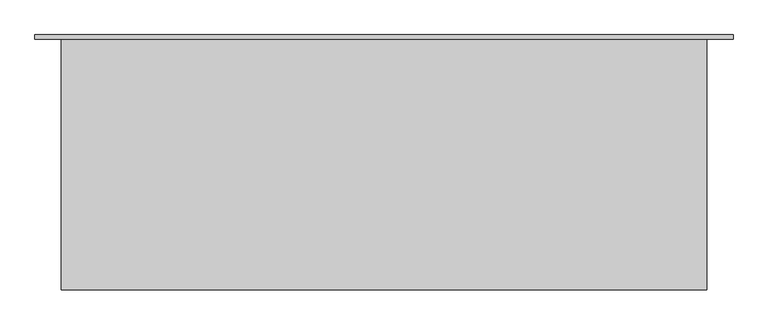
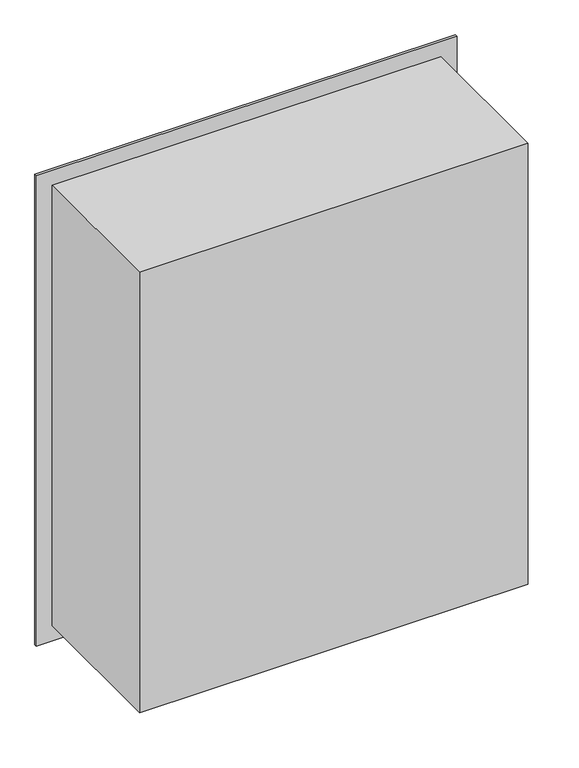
"""IFC4 building model written with IfcOpenShell, lengths in millimetres: proxy geometry, 1500x1800x600 Manway Riser."""

from ifc_helpers import new_model, si_unit, origin, place, context, project, spatial, faceted_brep, source, transform, mapped, element, save


def generic_models_ba4cfca8(model_context):
    return source(origin(), model_context, "Body", "Brep", [
        faceted_brep([(758.0, -600.0, -908.0), (758.0, -600.0, 908.0), (-758.0, -600.0, 908.0), (-758.0, -600.0, -908.0), (820.0, 0.0, -970.0), (-820.0, 0.0, -970.0), (-820.0, 0.0, 970.0), (820.0, 0.0, 970.0), (-758.0, -10.0, -908.0), (758.0, -10.0, -908.0), (-820.0, -10.0, -970.0), (820.0, -10.0, -970.0), (820.0, -10.0, 970.0), (-820.0, -10.0, 970.0), (-758.0, -10.0, 908.0), (758.0, -10.0, 908.0)], [[[0, 1, 2, 3]], [[4, 5, 6, 7]], [[0, 3, 8, 9]], [[10, 11, 12, 13], [9, 8, 14, 15]], [[3, 2, 14, 8]], [[2, 1, 15, 14]], [[0, 9, 15, 1]], [[5, 4, 11, 10]], [[6, 5, 10, 13]], [[7, 6, 13, 12]], [[4, 7, 12, 11]]]),
    ])


if __name__ == "__main__":
    model = new_model("IFC4")
    model_context = context("Model", 3, world=origin())
    ifc_project = project(units=[si_unit("LENGTHUNIT", "METRE", prefix="MILLI")], contexts=[model_context])
    site = spatial("IfcSite", under=ifc_project)
    building = spatial("IfcBuilding", under=site)
    placement = place(None, origin())
    generic_models_shape = generic_models_ba4cfca8(model_context)
    element("IfcBuildingElementProxy", 1, Name="1500x1800x600 Manway Riser", ObjectType="1500x1800x600 Manway Riser", at=placement, inside=building, context=model_context, shape_type="MappedRepresentation", body=[
        mapped(generic_models_shape, transform((0.0, 0.0, 0.0), x_axis=(1.0, 0.0, 0.0), y_axis=(0.0, 1.0, 0.0), z_axis=(0.0, 0.0, 1.0))),
    ])
    save(model, "model.ifc")
